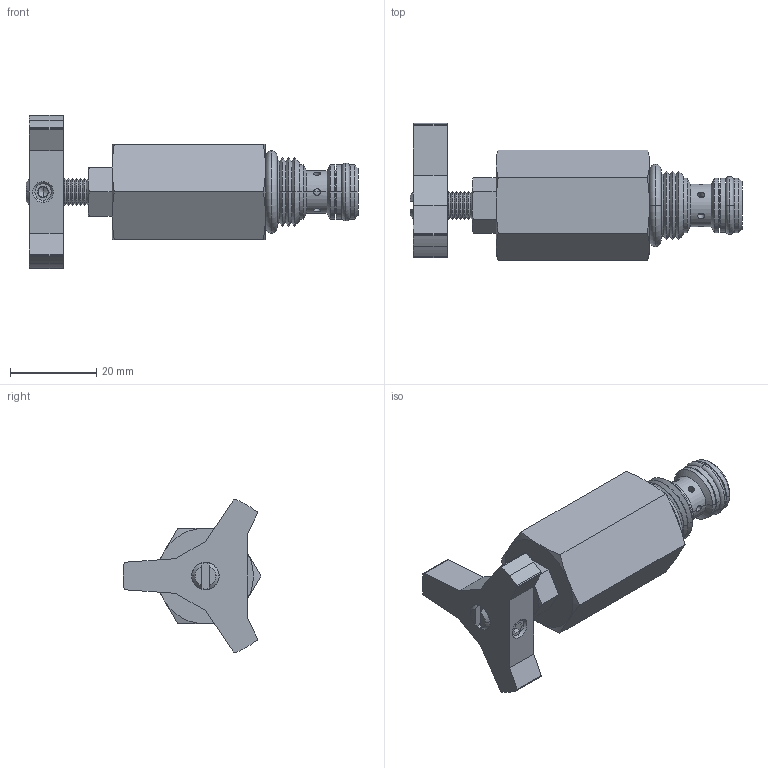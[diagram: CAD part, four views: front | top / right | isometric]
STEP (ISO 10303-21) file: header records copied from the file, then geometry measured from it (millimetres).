
FILE_DESCRIPTION((''),'2;1');
FILE_NAME('U:\Solid model CD\Solid model full\Mechanical\STEP\MAFCA0K-3D Full.stp','2008-07-29T09:47:45',('Dan'),(''),'Autodesk Inventor 9','Autodesk Inventor 9','');
FILE_SCHEMA(('AUTOMOTIVE_DESIGN { 1 0 10303 214 1 1 1 1 }'));
Length unit declared in the file: inch
Products named in the file (7): MAFCA0K-3D Full; MAFCA0K-3D Full1; MAFCA0K-3D Full2; MAFCA0K-3D Full3; MAFCA0K-3D Full4; MAFCA0K-3D Full5; MAFCA0K-3D Full6
Assembly tree (6 placements, depth 2):
  MAFCA0K-3D Full
    MAFCA0K-3D Full1
    MAFCA0K-3D Full2
    MAFCA0K-3D Full3
    MAFCA0K-3D Full4
    MAFCA0K-3D Full5
    MAFCA0K-3D Full6
Bounding box: 76.9 x 31.88 x 35.54 mm (x, y, z)
Volume: 22359.4 mm3; surface area: 8385.7 mm2
Topology: 6 solids, 6 shells, 316 faces, 724 edges, 426 vertices
Faces by surface type: cone 174, cylinder 72, plane 54, bspline 8, torus 8
Entity records: 9775 total; most frequent: CARTESIAN_POINT 2577, DIRECTION 1555, ORIENTED_EDGE 1440, EDGE_CURVE 720, AXIS2_PLACEMENT_3D 640, VERTEX_POINT 426, EDGE_LOOP 336, CIRCLE 319
